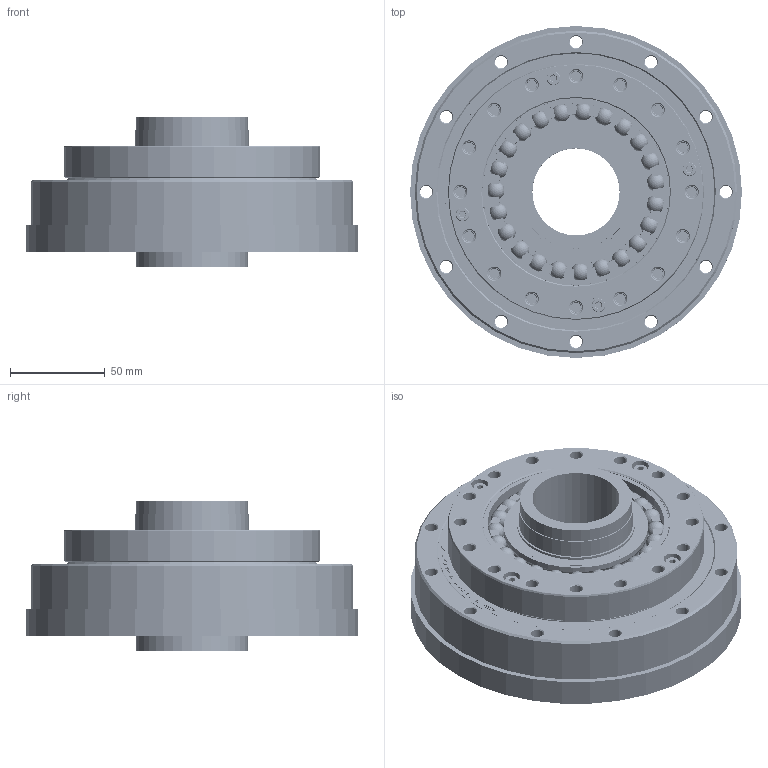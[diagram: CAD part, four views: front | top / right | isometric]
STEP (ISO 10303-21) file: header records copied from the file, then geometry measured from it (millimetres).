
FILE_DESCRIPTION(/* description */ (''),/* implementation_level */ '2;1');
FILE_NAME(/* name */ 'XBF40-IV成品图.stp',/* time_stamp */ '2022-07-23T10:17:10+08:00',/* author */ (''),/* organization */ (''),/* preprocessor_version */ 'ST-DEVELOPER v16',/* originating_system */ 'SIEMENS PLM Software NX 10.0',/* authorisation */ '');
FILE_SCHEMA (('CONFIG_CONTROL_DESIGN'));
Products named in the file (12): 40-柔性轴承保持架（日标）; M4X8; XBK40-4-1-1销子; 六角M4X12; G1321467; XBK40-3-1凸轮; XBK40-1钢轮; XBK40-4-2外圈; XBK40-2柔轮; 40-柔性轴承（日标）_MODEL; XBK40-4-1内芯_MODEL; XBK40成品图2
Assembly tree (20 placements, depth 3):
  XBK40成品图2
    XBK40-2柔轮
    XBK40-4-2外圈
    XBK40-4-1内芯_MODEL
      XBK40-4-1-1销子
      M4X8
    XBK40-1钢轮
    XBK40-3-1凸轮
    40-柔性轴承（日标）_MODEL
      40-柔性轴承保持架（日标）
    G1321467
    六角M4X12  x10
Bounding box: 175 x 175 x 79 mm (x, y, z)
Volume: 794675.3 mm3; surface area: 344435.6 mm2
Topology: 45 solids, 45 shells, 1128 faces, 2740 edges, 1764 vertices
Faces by surface type: plane 454, cylinder 264, cone 201, bspline 133, extrusion 43, sphere 23, torus 10
Full cylindrical faces by diameter (mm): 4.5 x13, 5.5 x4, 6.5 x40, 6.6 x12, 7.22 x11, 8 x7, 9 x4, 46 x1, 57 x1, 59 x2, 60 x3, 62 x1, 65 x1, 69 x1, 71.16 x1, 72.5 x1, 76 x1, 76.26 x2, 78 x1, 81.7 x1, 85 x1, 88 x1, 90.5 x1, 93.271 x2, 95 x1, 98.171 x2, 99 x1, 103 x2, 108 x2, 110.5 x1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
Entity records: 141308 total; most frequent: CARTESIAN_POINT 121586, ORIENTED_EDGE 3544, DIRECTION 3219, EDGE_CURVE 1772, EDGE_LOOP 1381, AXIS2_PLACEMENT_3D 1362, VERTEX_POINT 1334, FACE_BOUND 897
